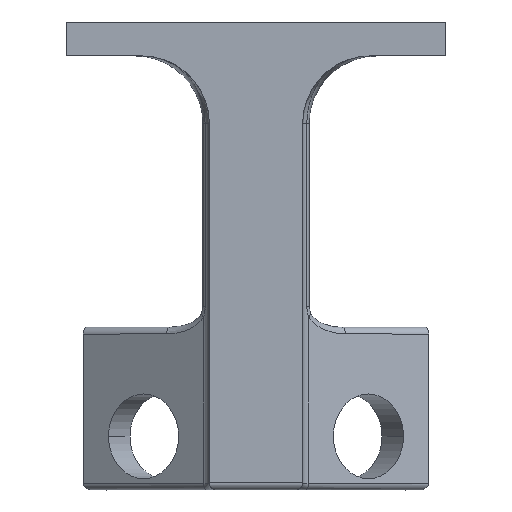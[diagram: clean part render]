
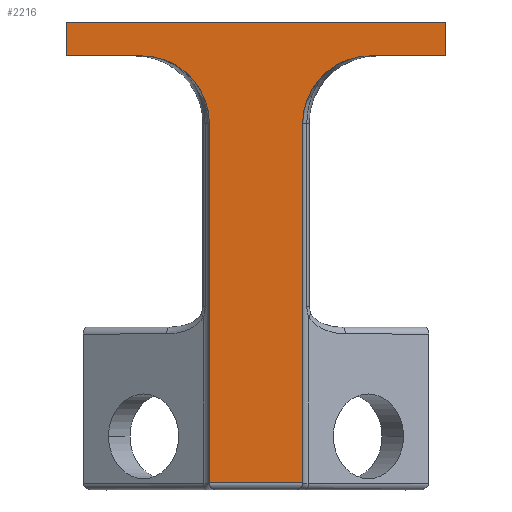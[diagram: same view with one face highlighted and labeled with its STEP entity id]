
A CAD part, top view. The second image highlights one B-rep face of the part: STEP entity #2216.
In plain terms, the highlighted planar face has unit normal (0, 0, 1).
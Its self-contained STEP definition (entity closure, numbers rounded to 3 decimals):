
#13 = EDGE_CURVE ( 'NONE', #385, #1142, #1702, .T. ) ;
#54 = LINE ( 'NONE', #2166, #357 ) ;
#112 = ORIENTED_EDGE ( 'NONE', *, *, #1837, .T. ) ;
#141 = DIRECTION ( 'NONE',  ( 1., 0., 0. ) ) ;
#142 = CARTESIAN_POINT ( 'NONE',  ( 6.874, -15., 31. ) ) ;
#161 = VECTOR ( 'NONE', #1315, 1000. ) ;
#216 = CARTESIAN_POINT ( 'NONE',  ( 10., -5., 31. ) ) ;
#240 = CARTESIAN_POINT ( 'NONE',  ( -28., 0., 31. ) ) ;
#267 = DIRECTION ( 'NONE',  ( 0., -1., 0. ) ) ;
#306 = VECTOR ( 'NONE', #1910, 1000. ) ;
#320 = PLANE ( 'NONE',  #1087 ) ;
#327 = VECTOR ( 'NONE', #1859, 1000. ) ;
#357 = VECTOR ( 'NONE', #439, 1000. ) ;
#373 = ORIENTED_EDGE ( 'NONE', *, *, #1981, .F. ) ;
#385 = VERTEX_POINT ( 'NONE', #2403 ) ;
#411 = EDGE_LOOP ( 'NONE', ( #553, #1454, #1970, #1907, #1351, #1298, #112, #1708, #373, #680 ) ) ;
#414 = CARTESIAN_POINT ( 'NONE',  ( -6.874, -15., 31. ) ) ;
#420 = CARTESIAN_POINT ( 'NONE',  ( 16.874, -15., 31. ) ) ;
#439 = DIRECTION ( 'NONE',  ( 1., 0., 0. ) ) ;
#446 = EDGE_CURVE ( 'NONE', #1152, #754, #1441, .T. ) ;
#484 = CARTESIAN_POINT ( 'NONE',  ( 10., 0., 31. ) ) ;
#486 = CIRCLE ( 'NONE', #2174, 10. ) ;
#492 = VECTOR ( 'NONE', #267, 1000. ) ;
#553 = ORIENTED_EDGE ( 'NONE', *, *, #752, .T. ) ;
#616 = DIRECTION ( 'NONE',  ( 0., 0., -1. ) ) ;
#650 = CARTESIAN_POINT ( 'NONE',  ( 28., 0., 31. ) ) ;
#654 = LINE ( 'NONE', #992, #492 ) ;
#668 = CARTESIAN_POINT ( 'NONE',  ( -28., -5., 31. ) ) ;
#680 = ORIENTED_EDGE ( 'NONE', *, *, #948, .T. ) ;
#716 = VERTEX_POINT ( 'NONE', #668 ) ;
#735 = CARTESIAN_POINT ( 'NONE',  ( 6.874, -68., 31. ) ) ;
#752 = EDGE_CURVE ( 'NONE', #716, #1152, #54, .T. ) ;
#754 = VERTEX_POINT ( 'NONE', #414 ) ;
#777 = CARTESIAN_POINT ( 'NONE',  ( 16.874, -5., 31. ) ) ;
#850 = CARTESIAN_POINT ( 'NONE',  ( -28., 0., 31. ) ) ;
#913 = EDGE_CURVE ( 'NONE', #1734, #1364, #486, .T. ) ;
#933 = CARTESIAN_POINT ( 'NONE',  ( -16.874, -5., 31. ) ) ;
#948 = EDGE_CURVE ( 'NONE', #1942, #716, #2211, .T. ) ;
#955 = LINE ( 'NONE', #2483, #161 ) ;
#983 = EDGE_CURVE ( 'NONE', #754, #385, #1828, .T. ) ;
#992 = CARTESIAN_POINT ( 'NONE',  ( 28., 0., 31. ) ) ;
#1087 = AXIS2_PLACEMENT_3D ( 'NONE', #484, #2256, #141 ) ;
#1093 = CARTESIAN_POINT ( 'NONE',  ( 28., -5., 31. ) ) ;
#1142 = VERTEX_POINT ( 'NONE', #735 ) ;
#1152 = VERTEX_POINT ( 'NONE', #933 ) ;
#1284 = CARTESIAN_POINT ( 'NONE',  ( -28., 0., 31. ) ) ;
#1298 = ORIENTED_EDGE ( 'NONE', *, *, #913, .T. ) ;
#1315 = DIRECTION ( 'NONE',  ( 0., -1., 0. ) ) ;
#1351 = ORIENTED_EDGE ( 'NONE', *, *, #1751, .F. ) ;
#1364 = VERTEX_POINT ( 'NONE', #777 ) ;
#1441 = CIRCLE ( 'NONE', #2407, 10. ) ;
#1454 = ORIENTED_EDGE ( 'NONE', *, *, #446, .T. ) ;
#1469 = DIRECTION ( 'NONE',  ( 1., 0., 0. ) ) ;
#1476 = VERTEX_POINT ( 'NONE', #650 ) ;
#1587 = DIRECTION ( 'NONE',  ( 1., 0., 0. ) ) ;
#1673 = FACE_OUTER_BOUND ( 'NONE', #411, .T. ) ;
#1702 = LINE ( 'NONE', #2463, #306 ) ;
#1708 = ORIENTED_EDGE ( 'NONE', *, *, #1997, .F. ) ;
#1734 = VERTEX_POINT ( 'NONE', #142 ) ;
#1751 = EDGE_CURVE ( 'NONE', #1734, #1142, #955, .T. ) ;
#1759 = VERTEX_POINT ( 'NONE', #1093 ) ;
#1828 = LINE ( 'NONE', #2259, #1844 ) ;
#1834 = DIRECTION ( 'NONE',  ( 0., 0., -1. ) ) ;
#1837 = EDGE_CURVE ( 'NONE', #1364, #1759, #1919, .T. ) ;
#1844 = VECTOR ( 'NONE', #2246, 1000. ) ;
#1859 = DIRECTION ( 'NONE',  ( 0., -1., 0. ) ) ;
#1907 = ORIENTED_EDGE ( 'NONE', *, *, #13, .T. ) ;
#1910 = DIRECTION ( 'NONE',  ( 1., 0., 0. ) ) ;
#1919 = LINE ( 'NONE', #216, #1925 ) ;
#1925 = VECTOR ( 'NONE', #1587, 1000. ) ;
#1942 = VERTEX_POINT ( 'NONE', #240 ) ;
#1943 = DIRECTION ( 'NONE',  ( 1., 0., 0. ) ) ;
#1953 = DIRECTION ( 'NONE',  ( 1., 0., 0. ) ) ;
#1970 = ORIENTED_EDGE ( 'NONE', *, *, #983, .T. ) ;
#1976 = VECTOR ( 'NONE', #1943, 1000. ) ;
#1981 = EDGE_CURVE ( 'NONE', #1942, #1476, #2376, .T. ) ;
#1997 = EDGE_CURVE ( 'NONE', #1476, #1759, #654, .T. ) ;
#2072 = CARTESIAN_POINT ( 'NONE',  ( -16.874, -15., 31. ) ) ;
#2166 = CARTESIAN_POINT ( 'NONE',  ( -28., -5., 31. ) ) ;
#2174 = AXIS2_PLACEMENT_3D ( 'NONE', #420, #616, #1953 ) ;
#2211 = LINE ( 'NONE', #1284, #327 ) ;
#2216 = ADVANCED_FACE ( 'NONE', ( #1673 ), #320, .T. ) ;
#2246 = DIRECTION ( 'NONE',  ( 0., -1., 0. ) ) ;
#2256 = DIRECTION ( 'NONE',  ( 0., 0., 1. ) ) ;
#2259 = CARTESIAN_POINT ( 'NONE',  ( -6.874, 0., 31. ) ) ;
#2376 = LINE ( 'NONE', #850, #1976 ) ;
#2403 = CARTESIAN_POINT ( 'NONE',  ( -6.874, -68., 31. ) ) ;
#2407 = AXIS2_PLACEMENT_3D ( 'NONE', #2072, #1834, #1469 ) ;
#2463 = CARTESIAN_POINT ( 'NONE',  ( 10., -68., 31. ) ) ;
#2483 = CARTESIAN_POINT ( 'NONE',  ( 6.874, 0., 31. ) ) ;
